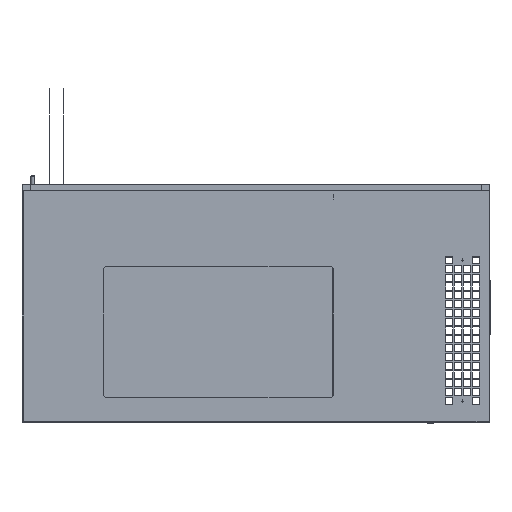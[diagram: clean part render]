
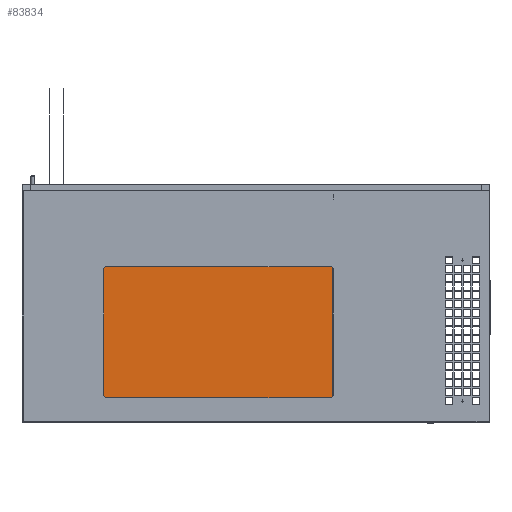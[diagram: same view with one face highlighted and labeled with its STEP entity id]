
A CAD part, left-side view. The second image highlights one B-rep face of the part: STEP entity #83834.
In plain terms, the highlighted planar face has unit normal (1, 0, 0).
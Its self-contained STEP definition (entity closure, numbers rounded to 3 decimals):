
#18888 = CARTESIAN_POINT ( 'NONE',  ( -5.466, 9.407, -13.62 ) ) ;
#20527 = VECTOR ( 'NONE', #22470, 39.37 ) ;
#20920 = CARTESIAN_POINT ( 'NONE',  ( -5.466, -4.593, -13.62 ) ) ;
#22470 = DIRECTION ( 'NONE',  ( 0., 0., -1. ) ) ;
#22850 = VERTEX_POINT ( 'NONE', #77618 ) ;
#27575 = EDGE_CURVE ( 'NONE', #86898, #22850, #117925, .T. ) ;
#28146 = ORIENTED_EDGE ( 'NONE', *, *, #27575, .T. ) ;
#28171 = DIRECTION ( 'NONE',  ( 0., 0., -1. ) ) ;
#32236 = EDGE_CURVE ( 'NONE', #22850, #82842, #96629, .T. ) ;
#35361 = DIRECTION ( 'NONE',  ( 0., 0., 1. ) ) ;
#35676 = VECTOR ( 'NONE', #41944, 39.37 ) ;
#35882 = CARTESIAN_POINT ( 'NONE',  ( -5.466, 2.407, -13.62 ) ) ;
#38134 = FACE_OUTER_BOUND ( 'NONE', #47463, .T. ) ;
#39348 = DIRECTION ( 'NONE',  ( 1., 0., 0. ) ) ;
#41944 = DIRECTION ( 'NONE',  ( 0., -1., 0. ) ) ;
#42042 = ORIENTED_EDGE ( 'NONE', *, *, #64374, .T. ) ;
#47463 = EDGE_LOOP ( 'NONE', ( #117550, #28146, #86920, #42042 ) ) ;
#48557 = VECTOR ( 'NONE', #73895, 39.37 ) ;
#52546 = EDGE_CURVE ( 'NONE', #96528, #86898, #82703, .T. ) ;
#64374 = EDGE_CURVE ( 'NONE', #82842, #96528, #74517, .T. ) ;
#73895 = DIRECTION ( 'NONE',  ( 0., 1., 0. ) ) ;
#74517 = LINE ( 'NONE', #35882, #48557 ) ;
#77563 = AXIS2_PLACEMENT_3D ( 'NONE', #104175, #39348, #28171 ) ;
#77618 = CARTESIAN_POINT ( 'NONE',  ( -5.466, -4.593, -4.62 ) ) ;
#82703 = LINE ( 'NONE', #120720, #86626 ) ;
#82842 = VERTEX_POINT ( 'NONE', #20920 ) ;
#83834 = ADVANCED_FACE ( 'NONE', ( #38134 ), #85472, .T. ) ;
#85472 = PLANE ( 'NONE',  #77563 ) ;
#86626 = VECTOR ( 'NONE', #35361, 39.37 ) ;
#86898 = VERTEX_POINT ( 'NONE', #105235 ) ;
#86920 = ORIENTED_EDGE ( 'NONE', *, *, #32236, .T. ) ;
#96528 = VERTEX_POINT ( 'NONE', #18888 ) ;
#96629 = LINE ( 'NONE', #107805, #20527 ) ;
#104175 = CARTESIAN_POINT ( 'NONE',  ( -5.466, 2.407, -9.12 ) ) ;
#105235 = CARTESIAN_POINT ( 'NONE',  ( -5.466, 9.407, -4.62 ) ) ;
#107805 = CARTESIAN_POINT ( 'NONE',  ( -5.466, -4.593, -9.12 ) ) ;
#109187 = CARTESIAN_POINT ( 'NONE',  ( -5.466, 2.407, -4.62 ) ) ;
#117550 = ORIENTED_EDGE ( 'NONE', *, *, #52546, .T. ) ;
#117925 = LINE ( 'NONE', #109187, #35676 ) ;
#120720 = CARTESIAN_POINT ( 'NONE',  ( -5.466, 9.407, -9.12 ) ) ;
